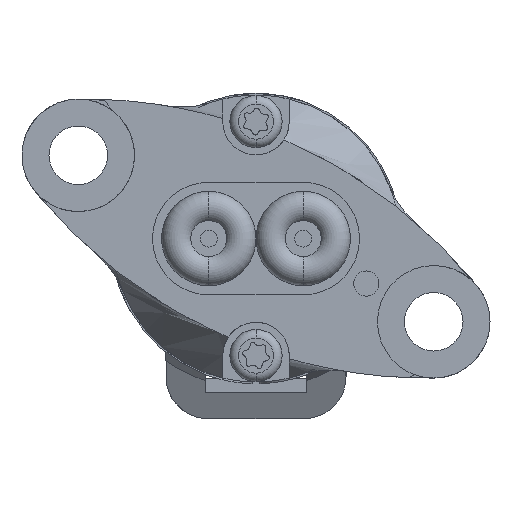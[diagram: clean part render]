
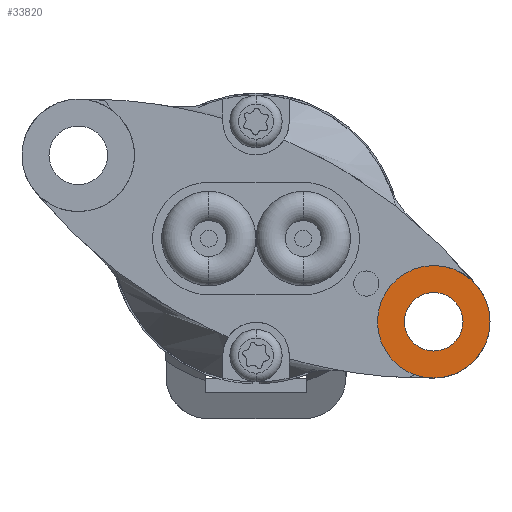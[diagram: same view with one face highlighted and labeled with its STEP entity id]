
A CAD part, front view. The second image highlights one B-rep face of the part: STEP entity #33820.
In plain terms, the highlighted planar face has unit normal (0, -1, 0).
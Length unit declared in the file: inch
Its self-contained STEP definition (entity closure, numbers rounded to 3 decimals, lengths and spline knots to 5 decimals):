
#60 = CARTESIAN_POINT ( 'NONE',  ( 0.395, -1.48345, -0.185 ) ) ;
#352 = EDGE_LOOP ( 'NONE', ( #29500, #30876 ) ) ;
#617 = EDGE_CURVE ( 'NONE', #30263, #32208, #27204, .T. ) ;
#1875 = FACE_BOUND ( 'NONE', #14148, .T. ) ;
#3285 = CIRCLE ( 'NONE', #10180, 0.065 ) ;
#3526 = EDGE_CURVE ( 'NONE', #32208, #30263, #31780, .T. ) ;
#5408 = ORIENTED_EDGE ( 'NONE', *, *, #40208, .F. ) ;
#8355 = FACE_OUTER_BOUND ( 'NONE', #352, .T. ) ;
#8625 = DIRECTION ( 'NONE',  ( 0., 0., -1. ) ) ;
#8632 = VERTEX_POINT ( 'NONE', #25680 ) ;
#9008 = AXIS2_PLACEMENT_3D ( 'NONE', #60, #42628, #26403 ) ;
#10180 = AXIS2_PLACEMENT_3D ( 'NONE', #17742, #13869, #27022 ) ;
#10592 = ORIENTED_EDGE ( 'NONE', *, *, #33384, .F. ) ;
#13869 = DIRECTION ( 'NONE',  ( 0., -1., 0. ) ) ;
#14148 = EDGE_LOOP ( 'NONE', ( #5408, #10592 ) ) ;
#17742 = CARTESIAN_POINT ( 'NONE',  ( 0.395, -1.48345, -0.185 ) ) ;
#18881 = CARTESIAN_POINT ( 'NONE',  ( 0.395, -1.48345, -0.06 ) ) ;
#20044 = CARTESIAN_POINT ( 'NONE',  ( 0.395, -1.48345, -0.25 ) ) ;
#21533 = DIRECTION ( 'NONE',  ( 0., 1., 0. ) ) ;
#21587 = DIRECTION ( 'NONE',  ( 0., -1., 0. ) ) ;
#24984 = CARTESIAN_POINT ( 'NONE',  ( -0.38863, -1.48345, -0.31558 ) ) ;
#25467 = CARTESIAN_POINT ( 'NONE',  ( 0.395, -1.48345, -0.185 ) ) ;
#25680 = CARTESIAN_POINT ( 'NONE',  ( 0.395, -1.48345, -0.12 ) ) ;
#26403 = DIRECTION ( 'NONE',  ( 0., 0., 1. ) ) ;
#27022 = DIRECTION ( 'NONE',  ( 0., 0., -1. ) ) ;
#27204 = CIRCLE ( 'NONE', #34267, 0.125 ) ;
#28165 = CARTESIAN_POINT ( 'NONE',  ( 0.395, -1.48345, -0.185 ) ) ;
#29500 = ORIENTED_EDGE ( 'NONE', *, *, #3526, .F. ) ;
#29667 = VERTEX_POINT ( 'NONE', #20044 ) ;
#30263 = VERTEX_POINT ( 'NONE', #35523 ) ;
#30876 = ORIENTED_EDGE ( 'NONE', *, *, #617, .F. ) ;
#30994 = DIRECTION ( 'NONE',  ( 0., 0., 1. ) ) ;
#31206 = AXIS2_PLACEMENT_3D ( 'NONE', #25467, #21587, #8625 ) ;
#31780 = CIRCLE ( 'NONE', #9008, 0.125 ) ;
#31887 = CIRCLE ( 'NONE', #31206, 0.065 ) ;
#32208 = VERTEX_POINT ( 'NONE', #18881 ) ;
#33384 = EDGE_CURVE ( 'NONE', #8632, #29667, #31887, .T. ) ;
#33820 = ADVANCED_FACE ( 'NONE', ( #1875, #8355 ), #41427, .F. ) ;
#34267 = AXIS2_PLACEMENT_3D ( 'NONE', #28165, #41369, #30994 ) ;
#34910 = AXIS2_PLACEMENT_3D ( 'NONE', #24984, #21533, #38179 ) ;
#35523 = CARTESIAN_POINT ( 'NONE',  ( 0.395, -1.48345, -0.31 ) ) ;
#38179 = DIRECTION ( 'NONE',  ( 0., 0., 1. ) ) ;
#40208 = EDGE_CURVE ( 'NONE', #29667, #8632, #3285, .T. ) ;
#41369 = DIRECTION ( 'NONE',  ( 0., 1., 0. ) ) ;
#41427 = PLANE ( 'NONE',  #34910 ) ;
#42628 = DIRECTION ( 'NONE',  ( 0., 1., 0. ) ) ;
